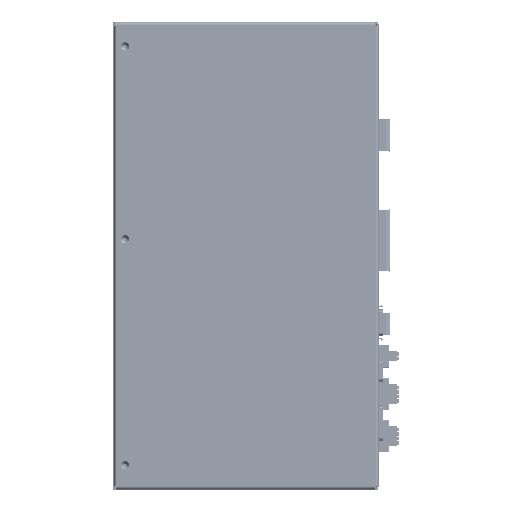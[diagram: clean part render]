
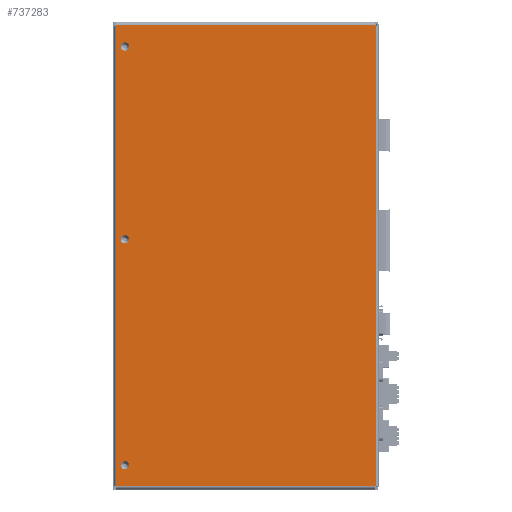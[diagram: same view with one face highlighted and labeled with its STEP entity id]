
A CAD part, front view. The second image highlights one B-rep face of the part: STEP entity #737283.
In plain terms, the highlighted planar face has unit normal (0, -1, 0) as drawn and (0, 0, -1) by its records, which use the part's own axes.
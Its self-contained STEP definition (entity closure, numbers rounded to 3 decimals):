
#708208=DIRECTION('',(0.,1.,0.));
#708209=VECTOR('',#708208,0.2);
#708210=CARTESIAN_POINT('',(-173.8,97.3,-16.));
#708211=LINE('',#708210,#708209);
#715176=DIRECTION('',(1.,0.,0.));
#715177=VECTOR('',#715176,0.2);
#715178=CARTESIAN_POINT('',(173.8,97.3,-16.));
#715179=LINE('',#715178,#715177);
#715198=DIRECTION('',(0.,-1.,0.));
#715199=VECTOR('',#715198,0.2);
#715200=CARTESIAN_POINT('',(173.8,97.5,-16.));
#715201=LINE('',#715200,#715199);
#715436=DIRECTION('',(0.,-1.,0.));
#715437=VECTOR('',#715436,195.9);
#715438=CARTESIAN_POINT('',(-174.,97.3,-16.));
#715439=LINE('',#715438,#715437);
#715440=DIRECTION('',(-1.,0.,0.));
#715441=VECTOR('',#715440,347.6);
#715442=CARTESIAN_POINT('',(173.8,97.5,-16.));
#715443=LINE('',#715442,#715441);
#715444=CARTESIAN_POINT('',(158.,-91.7,-16.));
#715445=DIRECTION('',(0.,0.,1.));
#715446=DIRECTION('',(1.,0.,0.));
#715447=AXIS2_PLACEMENT_3D('',#715444,#715445,#715446);
#715449=CARTESIAN_POINT('',(158.,-91.7,-16.));
#715450=DIRECTION('',(0.,0.,1.));
#715451=DIRECTION('',(-1.,0.,0.));
#715452=AXIS2_PLACEMENT_3D('',#715449,#715450,#715451);
#715454=CARTESIAN_POINT('',(12.5,-91.7,-16.));
#715455=DIRECTION('',(0.,0.,1.));
#715456=DIRECTION('',(-1.,0.,0.));
#715457=AXIS2_PLACEMENT_3D('',#715454,#715455,#715456);
#715459=CARTESIAN_POINT('',(12.5,-91.7,-16.));
#715460=DIRECTION('',(0.,0.,1.));
#715461=DIRECTION('',(1.,0.,0.));
#715462=AXIS2_PLACEMENT_3D('',#715459,#715460,#715461);
#715464=CARTESIAN_POINT('',(-158.,-91.7,-16.));
#715465=DIRECTION('',(0.,0.,1.));
#715466=DIRECTION('',(-1.,0.,0.));
#715467=AXIS2_PLACEMENT_3D('',#715464,#715465,#715466);
#715469=CARTESIAN_POINT('',(-158.,-91.7,-16.));
#715470=DIRECTION('',(0.,0.,1.));
#715471=DIRECTION('',(1.,0.,0.));
#715472=AXIS2_PLACEMENT_3D('',#715469,#715470,#715471);
#721353=DIRECTION('',(1.,0.,0.));
#721354=VECTOR('',#721353,348.);
#721355=CARTESIAN_POINT('',(-174.,-98.6,-16.));
#721356=LINE('',#721355,#721354);
#721488=DIRECTION('',(0.,-1.,0.));
#721489=VECTOR('',#721488,195.9);
#721490=CARTESIAN_POINT('',(174.,97.3,-16.));
#721491=LINE('',#721490,#721489);
#721502=DIRECTION('',(1.,0.,0.));
#721503=VECTOR('',#721502,0.2);
#721504=CARTESIAN_POINT('',(-174.,97.3,-16.));
#721505=LINE('',#721504,#721503);
#726710=CARTESIAN_POINT('',(-174.,97.3,-16.));
#726712=VERTEX_POINT('',#726710);
#726715=CARTESIAN_POINT('',(174.,97.3,-16.));
#726717=VERTEX_POINT('',#726715);
#726719=CARTESIAN_POINT('',(-173.8,97.5,-16.));
#726721=VERTEX_POINT('',#726719);
#726722=CARTESIAN_POINT('',(173.8,97.5,-16.));
#726723=VERTEX_POINT('',#726722);
#726726=CARTESIAN_POINT('',(-173.8,97.3,-16.));
#726727=VERTEX_POINT('',#726726);
#726728=CARTESIAN_POINT('',(173.8,97.3,-16.));
#726729=VERTEX_POINT('',#726728);
#726791=CARTESIAN_POINT('',(-174.,-98.6,-16.));
#726793=VERTEX_POINT('',#726791);
#726794=CARTESIAN_POINT('',(174.,-98.6,-16.));
#726795=VERTEX_POINT('',#726794);
#726826=CARTESIAN_POINT('',(161.15,-91.7,-16.));
#726827=CARTESIAN_POINT('',(154.85,-91.7,-16.));
#726828=VERTEX_POINT('',#726826);
#726829=VERTEX_POINT('',#726827);
#726834=CARTESIAN_POINT('',(9.35,-91.7,-16.));
#726835=CARTESIAN_POINT('',(15.65,-91.7,-16.));
#726836=VERTEX_POINT('',#726834);
#726837=VERTEX_POINT('',#726835);
#726842=CARTESIAN_POINT('',(-161.15,-91.7,-16.));
#726843=CARTESIAN_POINT('',(-154.85,-91.7,-16.));
#726844=VERTEX_POINT('',#726842);
#726845=VERTEX_POINT('',#726843);
#737246=CARTESIAN_POINT('',(0.,0.,-16.));
#737247=DIRECTION('',(0.,0.,-1.));
#737248=DIRECTION('',(-1.,0.,0.));
#737249=AXIS2_PLACEMENT_3D('',#737246,#737247,#737248);
#737250=PLANE('',#737249);
#737252=ORIENTED_EDGE('',*,*,#737251,.T.);
#737254=ORIENTED_EDGE('',*,*,#737253,.T.);
#737256=ORIENTED_EDGE('',*,*,#737255,.F.);
#737257=ORIENTED_EDGE('',*,*,#736943,.F.);
#737258=ORIENTED_EDGE('',*,*,#736964,.F.);
#737259=ORIENTED_EDGE('',*,*,#727673,.T.);
#737260=ORIENTED_EDGE('',*,*,#727694,.F.);
#737262=ORIENTED_EDGE('',*,*,#737261,.F.);
#737263=EDGE_LOOP('',(#737252,#737254,#737256,#737257,#737258,#737259,#737260,
#737262));
#737264=FACE_OUTER_BOUND('',#737263,.F.);
#737266=ORIENTED_EDGE('',*,*,#737265,.F.);
#737268=ORIENTED_EDGE('',*,*,#737267,.F.);
#737269=EDGE_LOOP('',(#737266,#737268));
#737270=FACE_BOUND('',#737269,.F.);
#737272=ORIENTED_EDGE('',*,*,#737271,.F.);
#737274=ORIENTED_EDGE('',*,*,#737273,.F.);
#737275=EDGE_LOOP('',(#737272,#737274));
#737276=FACE_BOUND('',#737275,.F.);
#737278=ORIENTED_EDGE('',*,*,#737277,.F.);
#737280=ORIENTED_EDGE('',*,*,#737279,.F.);
#737281=EDGE_LOOP('',(#737278,#737280));
#737282=FACE_BOUND('',#737281,.F.);
#737283=ADVANCED_FACE('',(#737264,#737270,#737276,#737282),#737250,.T.);
#715448=CIRCLE('',#715447,3.15);
#715453=CIRCLE('',#715452,3.15);
#715458=CIRCLE('',#715457,3.15);
#715463=CIRCLE('',#715462,3.15);
#715468=CIRCLE('',#715467,3.15);
#715473=CIRCLE('',#715472,3.15);
#727673=EDGE_CURVE('',#726723,#726721,#715443,.T.);
#727694=EDGE_CURVE('',#726727,#726721,#708211,.T.);
#736943=EDGE_CURVE('',#726729,#726717,#715179,.T.);
#736964=EDGE_CURVE('',#726723,#726729,#715201,.T.);
#737251=EDGE_CURVE('',#726712,#726793,#715439,.T.);
#737253=EDGE_CURVE('',#726793,#726795,#721356,.T.);
#737255=EDGE_CURVE('',#726717,#726795,#721491,.T.);
#737261=EDGE_CURVE('',#726712,#726727,#721505,.T.);
#737265=EDGE_CURVE('',#726828,#726829,#715448,.T.);
#737267=EDGE_CURVE('',#726829,#726828,#715453,.T.);
#737271=EDGE_CURVE('',#726836,#726837,#715458,.T.);
#737273=EDGE_CURVE('',#726837,#726836,#715463,.T.);
#737277=EDGE_CURVE('',#726844,#726845,#715468,.T.);
#737279=EDGE_CURVE('',#726845,#726844,#715473,.T.);
